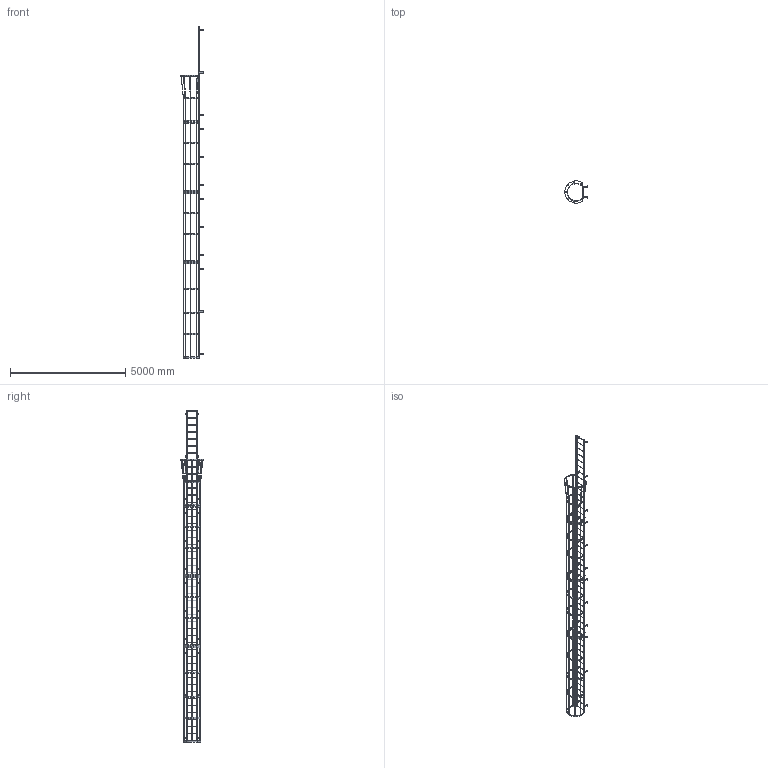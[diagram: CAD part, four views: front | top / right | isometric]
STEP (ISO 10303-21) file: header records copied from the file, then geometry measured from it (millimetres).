
FILE_DESCRIPTION(/* description */ (''),/* implementation_level */ '2;1');
FILE_NAME(/* name */ 'P:\MIKEL & KAREN\3570379 F48SC SIMPLIFIED PART.stp',/* time_stamp */ '2018-07-02T16:15:08-04:00',/* author */ ('stephanie'),/* organization */ (''),/* preprocessor_version */ 'ST-DEVELOPER v16.1',/* originating_system */ 'Autodesk Inventor 2016',/* authorisation */ '');
FILE_SCHEMA (('AUTOMOTIVE_DESIGN { 1 0 10303 214 3 1 1 }'));
Length unit declared in the file: centimetre
Products named in the file (1): 3570379 F48SC SIMPLIFIED PART
Bounding box: 974.15 x 977.88 x 14401.8 mm (x, y, z)
Volume: 51059156.6 mm3; surface area: 18301153.6 mm2
Topology: 69 solids, 69 shells, 1441 faces, 4359 edges, 2808 vertices
Faces by surface type: plane 950, cylinder 491
Full cylindrical faces by diameter (mm): 14.287 x30, 19.05 x48, 22.225 x96
Entity records: 49308 total; most frequent: ORIENTED_EDGE 8426, CARTESIAN_POINT 8183, DIRECTION 8133, EDGE_CURVE 4059, LINE 2869, VECTOR 2869, VERTEX_POINT 2682, AXIS2_PLACEMENT_3D 2632
